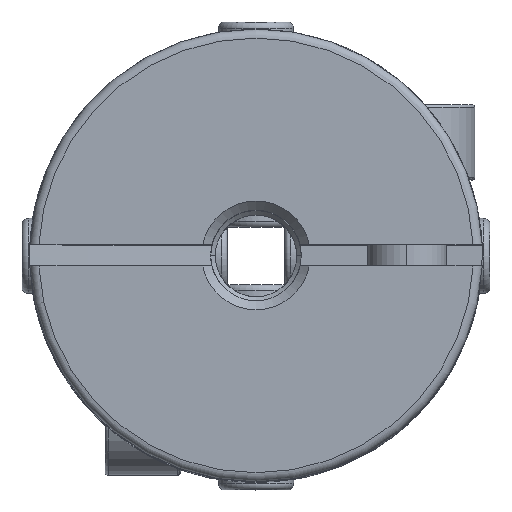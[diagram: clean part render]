
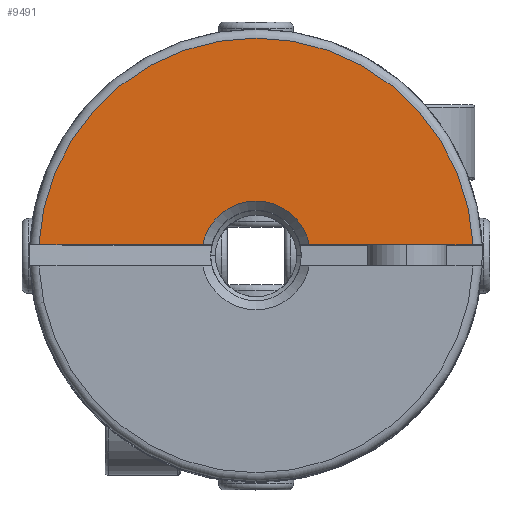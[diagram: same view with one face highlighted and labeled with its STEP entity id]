
A CAD part, top view. The second image highlights one B-rep face of the part: STEP entity #9491.
In plain terms, the highlighted planar face has unit normal (0, 0, 1).
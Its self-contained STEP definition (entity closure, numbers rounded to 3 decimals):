
#2607 = CIRCLE ( 'NONE', #6223, 7.2 ) ;
#2608 = CIRCLE ( 'NONE', #6221, 1.8 ) ;
#3470 = CARTESIAN_POINT ( 'NONE',  ( 7.191, 0.35, 11.1 ) ) ;
#3471 = CARTESIAN_POINT ( 'NONE',  ( -7.191, 0.35, 11.1 ) ) ;
#3472 = CARTESIAN_POINT ( 'NONE',  ( -1.766, 0.35, 11.1 ) ) ;
#3473 = CARTESIAN_POINT ( 'NONE',  ( 1.766, 0.35, 11.1 ) ) ;
#4300 = CARTESIAN_POINT ( 'NONE',  ( 0., 0., 11.1 ) ) ;
#4301 = LINE ( 'NONE', #4302, #6224 ) ;
#4302 = CARTESIAN_POINT ( 'NONE',  ( 0., 0.35, 11.1 ) ) ;
#4303 = DIRECTION ( 'NONE',  ( 1., 0., 0. ) ) ;
#4304 = DIRECTION ( 'NONE',  ( 0., 0., 1. ) ) ;
#4305 = DIRECTION ( 'NONE',  ( -1., 0., 0. ) ) ;
#4306 = CARTESIAN_POINT ( 'NONE',  ( 0., 0., 11.1 ) ) ;
#4307 = DIRECTION ( 'NONE',  ( 0., 0., -1. ) ) ;
#4308 = DIRECTION ( 'NONE',  ( -1., 0., 0. ) ) ;
#4310 = LINE ( 'NONE', #4311, #6227 ) ;
#4311 = CARTESIAN_POINT ( 'NONE',  ( 0., 0.35, 11.1 ) ) ;
#4312 = DIRECTION ( 'NONE',  ( 1., 0., 0. ) ) ;
#6221 = AXIS2_PLACEMENT_3D ( 'NONE', #4306, #4307, #4308 ) ;
#6223 = AXIS2_PLACEMENT_3D ( 'NONE', #4300, #4304, #4305 ) ;
#6224 = VECTOR ( 'NONE', #4303, 1000. ) ;
#6227 = VECTOR ( 'NONE', #4312, 1000. ) ;
#6734 = EDGE_LOOP ( 'NONE', ( #8182, #8184, #8183, #8185 ) ) ;
#7673 = VERTEX_POINT ( 'NONE', #3470 ) ;
#7674 = VERTEX_POINT ( 'NONE', #3471 ) ;
#7675 = VERTEX_POINT ( 'NONE', #3472 ) ;
#7676 = VERTEX_POINT ( 'NONE', #3473 ) ;
#7902 = EDGE_CURVE ( 'NONE', #7674, #7675, #4301, .T. ) ;
#7903 = EDGE_CURVE ( 'NONE', #7673, #7674, #2607, .T. ) ;
#7904 = EDGE_CURVE ( 'NONE', #7675, #7676, #2608, .T. ) ;
#7905 = EDGE_CURVE ( 'NONE', #7676, #7673, #4310, .T. ) ;
#8182 = ORIENTED_EDGE ( 'NONE', *, *, #7903, .T. ) ;
#8183 = ORIENTED_EDGE ( 'NONE', *, *, #7904, .T. ) ;
#8184 = ORIENTED_EDGE ( 'NONE', *, *, #7902, .T. ) ;
#8185 = ORIENTED_EDGE ( 'NONE', *, *, #7905, .T. ) ;
#9491 = ADVANCED_FACE ( 'NONE', ( #10091 ), #11977, .T. ) ;
#10091 = FACE_OUTER_BOUND ( 'NONE', #6734, .T. ) ;
#10100 = AXIS2_PLACEMENT_3D ( 'NONE', #11978, #11979, #11980 ) ;
#11977 = PLANE ( 'NONE',  #10100 ) ;
#11978 = CARTESIAN_POINT ( 'NONE',  ( 0., 0., 11.1 ) ) ;
#11979 = DIRECTION ( 'NONE',  ( 0., 0., 1. ) ) ;
#11980 = DIRECTION ( 'NONE',  ( -1., 0., 0. ) ) ;
